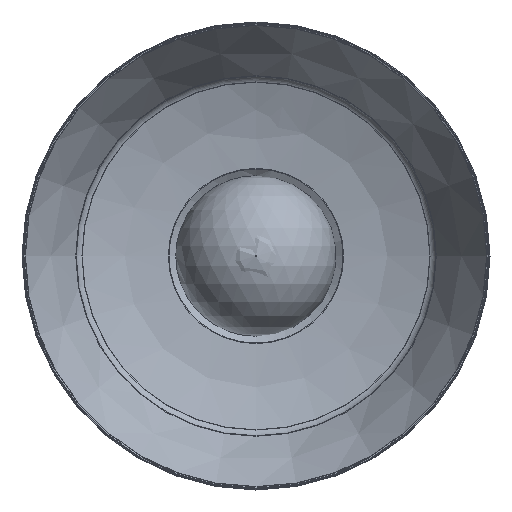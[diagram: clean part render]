
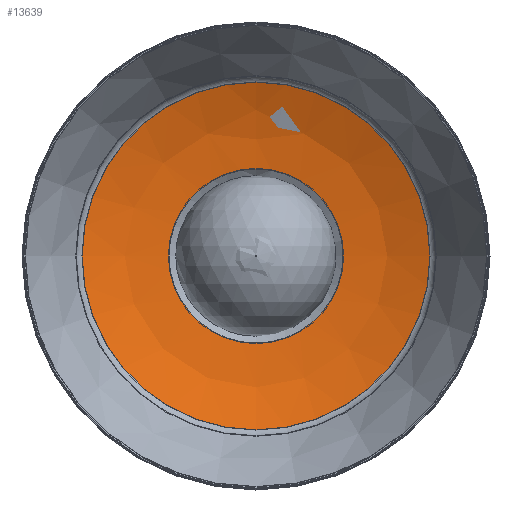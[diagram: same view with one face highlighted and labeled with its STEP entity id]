
A CAD part, front view. The second image highlights one B-rep face of the part: STEP entity #13639.
In plain terms, the highlighted free-form (B-spline) face has degree [2, 2] with [3, 9] control points.
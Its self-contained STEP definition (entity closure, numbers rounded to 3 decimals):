
#2993=(
BOUNDED_SURFACE()
B_SPLINE_SURFACE(2,2,((#22088,#22089,#22090,#22091,#22092,#22093,#22094,
#22095,#22096),(#22097,#22098,#22099,#22100,#22101,#22102,#22103,#22104,
#22105),(#22106,#22107,#22108,#22109,#22110,#22111,#22112,#22113,#22114)),
 .UNSPECIFIED.,.F.,.T.,.F.)
B_SPLINE_SURFACE_WITH_KNOTS((3,3),(3,2,2,2,3),(-1.549,-1.158),
(-3.142,-1.571,0.,1.571,3.142),
 .UNSPECIFIED.)
GEOMETRIC_REPRESENTATION_ITEM()
RATIONAL_B_SPLINE_SURFACE(((1.,0.707,1.,0.707,1.,
0.707,1.,0.707,1.),(0.981,0.694,
0.981,0.694,0.981,0.694,
0.981,0.694,0.981),(1.,0.707,
1.,0.707,1.,0.707,1.,0.707,1.)))
REPRESENTATION_ITEM('')
SURFACE()
);
#3612=FACE_OUTER_BOUND('',#4347,.T.);
#4347=EDGE_LOOP('',(#10122,#10123,#10124,#10125,#10126,#10127));
#6246=CIRCLE('',#14697,73.159);
#6247=CIRCLE('',#14698,73.159);
#6248=CIRCLE('',#14699,192.356);
#6249=CIRCLE('',#14700,146.179);
#6250=CIRCLE('',#14701,146.179);
#7291=VERTEX_POINT('',#22083);
#7292=VERTEX_POINT('',#22085);
#7293=VERTEX_POINT('',#22115);
#7294=VERTEX_POINT('',#22117);
#8352=EDGE_CURVE('',#7291,#7292,#6246,.T.);
#8353=EDGE_CURVE('',#7292,#7291,#6247,.T.);
#8354=EDGE_CURVE('',#7292,#7293,#6248,.T.);
#8355=EDGE_CURVE('',#7293,#7294,#6249,.T.);
#8356=EDGE_CURVE('',#7294,#7293,#6250,.T.);
#10122=ORIENTED_EDGE('',*,*,#8352,.F.);
#10123=ORIENTED_EDGE('',*,*,#8353,.F.);
#10124=ORIENTED_EDGE('',*,*,#8354,.T.);
#10125=ORIENTED_EDGE('',*,*,#8355,.T.);
#10126=ORIENTED_EDGE('',*,*,#8356,.T.);
#10127=ORIENTED_EDGE('',*,*,#8354,.F.);
#13639=ADVANCED_FACE('',(#3612),#2993,.T.);
#14697=AXIS2_PLACEMENT_3D('',#22086,#16984,#16985);
#14698=AXIS2_PLACEMENT_3D('',#22087,#16986,#16987);
#14699=AXIS2_PLACEMENT_3D('',#22116,#16988,#16989);
#14700=AXIS2_PLACEMENT_3D('',#22118,#16990,#16991);
#14701=AXIS2_PLACEMENT_3D('',#22119,#16992,#16993);
#16984=DIRECTION('center_axis',(0.,-1.,0.));
#16985=DIRECTION('ref_axis',(1.,0.,0.));
#16986=DIRECTION('center_axis',(0.,-1.,0.));
#16987=DIRECTION('ref_axis',(1.,0.,0.));
#16988=DIRECTION('center_axis',(1.,0.,0.));
#16989=DIRECTION('ref_axis',(0.,0.,1.));
#16990=DIRECTION('center_axis',(0.,-1.,0.));
#16991=DIRECTION('ref_axis',(1.,0.,0.));
#16992=DIRECTION('center_axis',(0.,-1.,0.));
#16993=DIRECTION('ref_axis',(1.,0.,0.));
#22083=CARTESIAN_POINT('',(-73.159,97.321,0.));
#22085=CARTESIAN_POINT('',(0.,97.321,73.159));
#22086=CARTESIAN_POINT('Origin',(0.,97.321,0.));
#22087=CARTESIAN_POINT('Origin',(0.,97.321,0.));
#22088=CARTESIAN_POINT('Ctrl Pts',(0.,97.321,73.159));
#22089=CARTESIAN_POINT('Ctrl Pts',(-73.159,97.321,73.159));
#22090=CARTESIAN_POINT('Ctrl Pts',(-73.159,97.321,0.));
#22091=CARTESIAN_POINT('Ctrl Pts',(-73.159,97.321,-73.159));
#22092=CARTESIAN_POINT('Ctrl Pts',(0.,97.321,-73.159));
#22093=CARTESIAN_POINT('Ctrl Pts',(73.159,97.321,-73.159));
#22094=CARTESIAN_POINT('Ctrl Pts',(73.159,97.321,0.));
#22095=CARTESIAN_POINT('Ctrl Pts',(73.159,97.321,73.159));
#22096=CARTESIAN_POINT('Ctrl Pts',(0.,97.321,73.159));
#22097=CARTESIAN_POINT('Ctrl Pts',(0.,96.505,111.264));
#22098=CARTESIAN_POINT('Ctrl Pts',(-111.264,96.505,111.264));
#22099=CARTESIAN_POINT('Ctrl Pts',(-111.264,96.505,0.));
#22100=CARTESIAN_POINT('Ctrl Pts',(-111.264,96.505,-111.264));
#22101=CARTESIAN_POINT('Ctrl Pts',(0.,96.505,-111.264));
#22102=CARTESIAN_POINT('Ctrl Pts',(111.264,96.505,-111.264));
#22103=CARTESIAN_POINT('Ctrl Pts',(111.264,96.505,0.));
#22104=CARTESIAN_POINT('Ctrl Pts',(111.264,96.505,111.264));
#22105=CARTESIAN_POINT('Ctrl Pts',(0.,96.505,111.264));
#22106=CARTESIAN_POINT('Ctrl Pts',(0.,81.222,146.179));
#22107=CARTESIAN_POINT('Ctrl Pts',(-146.179,81.222,146.179));
#22108=CARTESIAN_POINT('Ctrl Pts',(-146.179,81.222,0.));
#22109=CARTESIAN_POINT('Ctrl Pts',(-146.179,81.222,-146.179));
#22110=CARTESIAN_POINT('Ctrl Pts',(0.,81.222,-146.179));
#22111=CARTESIAN_POINT('Ctrl Pts',(146.179,81.222,-146.179));
#22112=CARTESIAN_POINT('Ctrl Pts',(146.179,81.222,0.));
#22113=CARTESIAN_POINT('Ctrl Pts',(146.179,81.222,146.179));
#22114=CARTESIAN_POINT('Ctrl Pts',(0.,81.222,146.179));
#22115=CARTESIAN_POINT('',(0.,81.222,146.179));
#22116=CARTESIAN_POINT('Origin',(0.,-94.991,
69.042));
#22117=CARTESIAN_POINT('',(146.179,81.222,0.));
#22118=CARTESIAN_POINT('Origin',(0.,81.222,0.));
#22119=CARTESIAN_POINT('Origin',(0.,81.222,0.));
